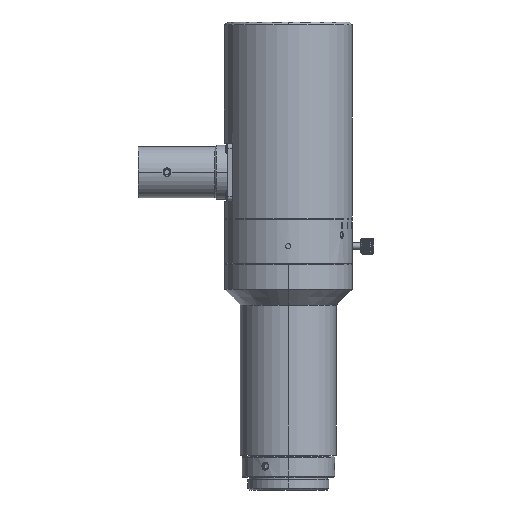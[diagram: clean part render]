
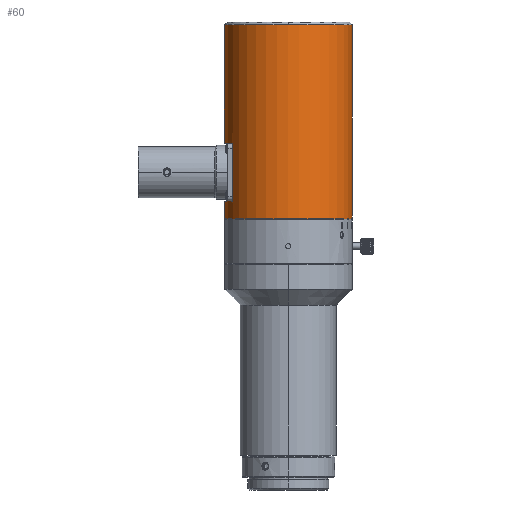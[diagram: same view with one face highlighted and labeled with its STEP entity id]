
A CAD part, left-side view. The second image highlights one B-rep face of the part: STEP entity #60.
In plain terms, the highlighted cylindrical face has radius 20 mm (diameter 40 mm), a partial arc.
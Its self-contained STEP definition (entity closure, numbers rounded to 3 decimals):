
#60 = ADVANCED_FACE ( 'NONE', ( #25736 ), #25737, .T. ) ;
#504 = CIRCLE ( 'NONE', #508, 20. ) ;
#508 = AXIS2_PLACEMENT_3D ( 'NONE', #26361, #26360, #26359 ) ;
#1900 = ORIENTED_EDGE ( 'NONE', *, *, #5161, .T. ) ;
#1917 = ORIENTED_EDGE ( 'NONE', *, *, #16673, .F. ) ;
#2017 = ORIENTED_EDGE ( 'NONE', *, *, #16672, .T. ) ;
#2055 = ORIENTED_EDGE ( 'NONE', *, *, #4824, .T. ) ;
#2195 = ORIENTED_EDGE ( 'NONE', *, *, #5155, .T. ) ;
#2245 = ORIENTED_EDGE ( 'NONE', *, *, #16670, .T. ) ;
#2265 = ORIENTED_EDGE ( 'NONE', *, *, #5315, .F. ) ;
#2307 = ORIENTED_EDGE ( 'NONE', *, *, #16676, .T. ) ;
#2317 = ORIENTED_EDGE ( 'NONE', *, *, #5154, .T. ) ;
#2330 = ORIENTED_EDGE ( 'NONE', *, *, #16669, .T. ) ;
#2352 = ORIENTED_EDGE ( 'NONE', *, *, #29075, .T. ) ;
#2374 = ORIENTED_EDGE ( 'NONE', *, *, #5151, .F. ) ;
#2760 = B_SPLINE_CURVE_WITH_KNOTS ( 'NONE', 3,
 ( #12762, #12763, #12764, #12765, #12766, #12767, #12768, #12769, #12770, #12771, #12772, #12773, #12774, #12775, #12776, #12777, #12778, #12779, #12780, #12781, #12782, #12783 ),
 .UNSPECIFIED., .F., .F.,
 ( 4, 2, 2, 2, 2, 2, 2, 2, 2, 2, 4 ),
 ( 0.5, 0.5, 0.563, 0.594, 0.625, 0.688, 0.75, 0.813, 0.875, 0.938, 1. ),
 .UNSPECIFIED. ) ;
#3105 = LINE ( 'NONE', #8912, #8515 ) ;
#3106 = LINE ( 'NONE', #8920, #8526 ) ;
#3107 = LINE ( 'NONE', #8922, #8529 ) ;
#3172 = LINE ( 'NONE', #11363, #17104 ) ;
#3317 = LINE ( 'NONE', #12752, #16731 ) ;
#4824 = EDGE_CURVE ( 'NONE', #24011, #24853, #504, .T. ) ;
#5151 = EDGE_CURVE ( 'NONE', #23676, #23690, #3105, .T. ) ;
#5154 = EDGE_CURVE ( 'NONE', #10584, #24011, #3106, .T. ) ;
#5155 = EDGE_CURVE ( 'NONE', #23576, #10145, #3107, .T. ) ;
#5161 = EDGE_CURVE ( 'NONE', #23613, #23574, #8493, .T. ) ;
#5315 = EDGE_CURVE ( 'NONE', #23613, #23593, #3172, .T. ) ;
#8493 = CIRCLE ( 'NONE', #8565, 20. ) ;
#8515 = VECTOR ( 'NONE', #8913, 1000. ) ;
#8526 = VECTOR ( 'NONE', #8921, 1000. ) ;
#8529 = VECTOR ( 'NONE', #8923, 1000. ) ;
#8565 = AXIS2_PLACEMENT_3D ( 'NONE', #8955, #8956, #8957 ) ;
#8912 = CARTESIAN_POINT ( 'NONE',  ( 0., 20., 0. ) ) ;
#8913 = DIRECTION ( 'NONE',  ( 0., 0., 1. ) ) ;
#8920 = CARTESIAN_POINT ( 'NONE',  ( 0., -20., 0. ) ) ;
#8921 = DIRECTION ( 'NONE',  ( 0., 0., 1. ) ) ;
#8922 = CARTESIAN_POINT ( 'NONE',  ( 0., -20., 0. ) ) ;
#8923 = DIRECTION ( 'NONE',  ( 0., 0., 1. ) ) ;
#8955 = CARTESIAN_POINT ( 'NONE',  ( 0., 0., -2.05 ) ) ;
#8956 = DIRECTION ( 'NONE',  ( 0., 0., 1. ) ) ;
#8957 = DIRECTION ( 'NONE',  ( 1., 0., 0. ) ) ;
#10145 = VERTEX_POINT ( 'NONE', #11413 ) ;
#10584 = VERTEX_POINT ( 'NONE', #11458 ) ;
#11363 = CARTESIAN_POINT ( 'NONE',  ( 0., 20., 0. ) ) ;
#11364 = DIRECTION ( 'NONE',  ( 0., 0., 1. ) ) ;
#11413 = CARTESIAN_POINT ( 'NONE',  ( 0., -20., -1.15 ) ) ;
#11458 = CARTESIAN_POINT ( 'NONE',  ( 0., -20., 0.848 ) ) ;
#12752 = CARTESIAN_POINT ( 'NONE',  ( -9.682, 17.5, 0. ) ) ;
#12753 = DIRECTION ( 'NONE',  ( 0., 0., -1. ) ) ;
#12754 = CARTESIAN_POINT ( 'NONE',  ( 0., 0., 3.4 ) ) ;
#12755 = DIRECTION ( 'NONE',  ( 0., 0., -1. ) ) ;
#12756 = DIRECTION ( 'NONE',  ( 1., 0., 0. ) ) ;
#12759 = CARTESIAN_POINT ( 'NONE',  ( 0., 0., 21.6 ) ) ;
#12760 = DIRECTION ( 'NONE',  ( 0., 0., 1. ) ) ;
#12761 = DIRECTION ( 'NONE',  ( -1., 0., 0. ) ) ;
#12762 = CARTESIAN_POINT ( 'NONE',  ( 0., -20., 0.848 ) ) ;
#12763 = CARTESIAN_POINT ( 'NONE',  ( 0., -20., 0.848 ) ) ;
#12764 = CARTESIAN_POINT ( 'NONE',  ( -0.001, -20., 0.848 ) ) ;
#12765 = CARTESIAN_POINT ( 'NONE',  ( -0.135, -20., 0.848 ) ) ;
#12766 = CARTESIAN_POINT ( 'NONE',  ( -0.264, -19.999, 0.823 ) ) ;
#12767 = CARTESIAN_POINT ( 'NONE',  ( -0.444, -19.995, 0.748 ) ) ;
#12768 = CARTESIAN_POINT ( 'NONE',  ( -0.501, -19.994, 0.718 ) ) ;
#12769 = CARTESIAN_POINT ( 'NONE',  ( -0.608, -19.991, 0.645 ) ) ;
#12770 = CARTESIAN_POINT ( 'NONE',  ( -0.66, -19.989, 0.603 ) ) ;
#12771 = CARTESIAN_POINT ( 'NONE',  ( -0.8, -19.984, 0.46 ) ) ;
#12772 = CARTESIAN_POINT ( 'NONE',  ( -0.872, -19.981, 0.352 ) ) ;
#12773 = CARTESIAN_POINT ( 'NONE',  ( -0.975, -19.976, 0.109 ) ) ;
#12774 = CARTESIAN_POINT ( 'NONE',  ( -1., -19.975, -0.019 ) ) ;
#12775 = CARTESIAN_POINT ( 'NONE',  ( -0.997, -19.975, -0.283 ) ) ;
#12776 = CARTESIAN_POINT ( 'NONE',  ( -0.972, -19.976, -0.409 ) ) ;
#12777 = CARTESIAN_POINT ( 'NONE',  ( -0.87, -19.981, -0.658 ) ) ;
#12778 = CARTESIAN_POINT ( 'NONE',  ( -0.799, -19.984, -0.766 ) ) ;
#12779 = CARTESIAN_POINT ( 'NONE',  ( -0.613, -19.991, -0.95 ) ) ;
#12780 = CARTESIAN_POINT ( 'NONE',  ( -0.506, -19.994, -1.021 ) ) ;
#12781 = CARTESIAN_POINT ( 'NONE',  ( -0.257, -19.999, -1.125 ) ) ;
#12782 = CARTESIAN_POINT ( 'NONE',  ( -0.13, -20., -1.15 ) ) ;
#12783 = CARTESIAN_POINT ( 'NONE',  ( 0., -20., -1.15 ) ) ;
#12896 = CARTESIAN_POINT ( 'NONE',  ( 0., 0., -2.05 ) ) ;
#12897 = DIRECTION ( 'NONE',  ( 0., 0., 1. ) ) ;
#12898 = DIRECTION ( 'NONE',  ( 1., 0., 0. ) ) ;
#14432 = CARTESIAN_POINT ( 'NONE',  ( -20., 0., -2.05 ) ) ;
#14433 = CARTESIAN_POINT ( 'NONE',  ( 0., -20., -2.05 ) ) ;
#14441 = CARTESIAN_POINT ( 'NONE',  ( 0., 20., 3.4 ) ) ;
#14450 = CARTESIAN_POINT ( 'NONE',  ( 0., 20., -2.05 ) ) ;
#14480 = CARTESIAN_POINT ( 'NONE',  ( 0., 20., 21.6 ) ) ;
#14486 = CARTESIAN_POINT ( 'NONE',  ( 0., 20., 58.75 ) ) ;
#14637 = CARTESIAN_POINT ( 'NONE',  ( 0., -20., 58.75 ) ) ;
#15165 = CARTESIAN_POINT ( 'NONE',  ( -20., 0., 58.75 ) ) ;
#16669 = EDGE_CURVE ( 'NONE', #27248, #26987, #3317, .T. ) ;
#16670 = EDGE_CURVE ( 'NONE', #26987, #23593, #16719, .T. ) ;
#16672 = EDGE_CURVE ( 'NONE', #23676, #27248, #16733, .T. ) ;
#16673 = EDGE_CURVE ( 'NONE', #10584, #10145, #2760, .T. ) ;
#16676 = EDGE_CURVE ( 'NONE', #23574, #23576, #16737, .T. ) ;
#16719 = CIRCLE ( 'NONE', #16732, 20. ) ;
#16731 = VECTOR ( 'NONE', #12753, 1000. ) ;
#16732 = AXIS2_PLACEMENT_3D ( 'NONE', #12754, #12755, #12756 ) ;
#16733 = CIRCLE ( 'NONE', #16735, 20. ) ;
#16735 = AXIS2_PLACEMENT_3D ( 'NONE', #12759, #12760, #12761 ) ;
#16737 = CIRCLE ( 'NONE', #16738, 20. ) ;
#16738 = AXIS2_PLACEMENT_3D ( 'NONE', #12896, #12897, #12898 ) ;
#17104 = VECTOR ( 'NONE', #11364, 1000. ) ;
#17866 = CARTESIAN_POINT ( 'NONE',  ( -9.682, 17.5, 3.4 ) ) ;
#17894 = CARTESIAN_POINT ( 'NONE',  ( -9.682, 17.5, 21.6 ) ) ;
#21413 = CARTESIAN_POINT ( 'NONE',  ( 0., 0., 58.75 ) ) ;
#21414 = DIRECTION ( 'NONE',  ( 0., 0., -1. ) ) ;
#21415 = DIRECTION ( 'NONE',  ( -1., 0., 0. ) ) ;
#21966 = DIRECTION ( 'NONE',  ( 0., -1., 0. ) ) ;
#21967 = DIRECTION ( 'NONE',  ( 0., 0., 1. ) ) ;
#21968 = CARTESIAN_POINT ( 'NONE',  ( 0., 0., 0. ) ) ;
#23574 = VERTEX_POINT ( 'NONE', #14432 ) ;
#23576 = VERTEX_POINT ( 'NONE', #14433 ) ;
#23593 = VERTEX_POINT ( 'NONE', #14441 ) ;
#23613 = VERTEX_POINT ( 'NONE', #14450 ) ;
#23676 = VERTEX_POINT ( 'NONE', #14480 ) ;
#23690 = VERTEX_POINT ( 'NONE', #14486 ) ;
#24011 = VERTEX_POINT ( 'NONE', #14637 ) ;
#24853 = VERTEX_POINT ( 'NONE', #15165 ) ;
#25736 = FACE_OUTER_BOUND ( 'NONE', #28178, .T. ) ;
#25737 = CYLINDRICAL_SURFACE ( 'NONE', #29013, 20. ) ;
#26359 = DIRECTION ( 'NONE',  ( -1., 0., 0. ) ) ;
#26360 = DIRECTION ( 'NONE',  ( 0., 0., -1. ) ) ;
#26361 = CARTESIAN_POINT ( 'NONE',  ( 0., 0., 58.75 ) ) ;
#26987 = VERTEX_POINT ( 'NONE', #17866 ) ;
#27248 = VERTEX_POINT ( 'NONE', #17894 ) ;
#28178 = EDGE_LOOP ( 'NONE', ( #2265, #1900, #2307, #2195, #1917, #2317, #2055, #2352, #2374, #2017, #2330, #2245 ) ) ;
#29013 = AXIS2_PLACEMENT_3D ( 'NONE', #21968, #21967, #21966 ) ;
#29075 = EDGE_CURVE ( 'NONE', #24853, #23690, #30728, .T. ) ;
#30728 = CIRCLE ( 'NONE', #30730, 20. ) ;
#30730 = AXIS2_PLACEMENT_3D ( 'NONE', #21413, #21414, #21415 ) ;
